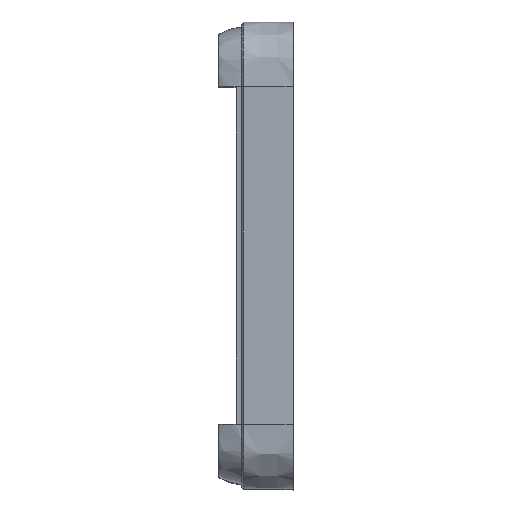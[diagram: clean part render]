
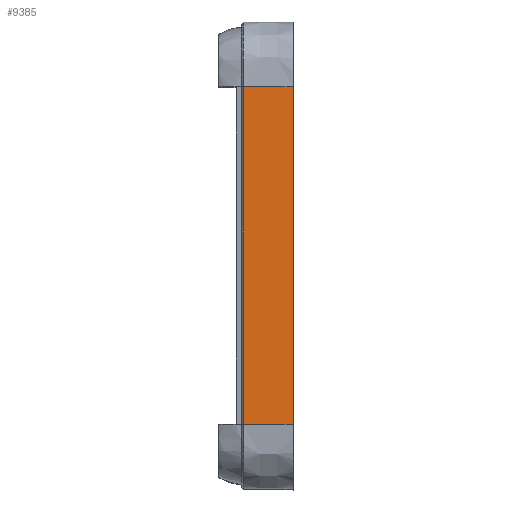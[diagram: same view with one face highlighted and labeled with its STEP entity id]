
A CAD part, top view. The second image highlights one B-rep face of the part: STEP entity #9385.
In plain terms, the highlighted planar face has unit normal (0, 0, 1).
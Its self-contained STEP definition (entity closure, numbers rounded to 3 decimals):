
#54=PLANE('',#9880);
#634=FACE_OUTER_BOUND('',#1185,.T.);
#1185=EDGE_LOOP('',(#7367,#7368,#7369,#7370));
#2788=LINE('',#22803,#3112);
#2818=LINE('',#28163,#3142);
#2823=LINE('',#28329,#3147);
#2824=LINE('',#28331,#3148);
#3112=VECTOR('',#10620,10.);
#3142=VECTOR('',#10734,10.);
#3147=VECTOR('',#10739,10.);
#3148=VECTOR('',#10742,10.);
#3889=VERTEX_POINT('',#22716);
#3893=VERTEX_POINT('',#22802);
#4018=VERTEX_POINT('',#28162);
#4023=VERTEX_POINT('',#28316);
#5041=EDGE_CURVE('',#3893,#3889,#2788,.T.);
#5254=EDGE_CURVE('',#3889,#4018,#2818,.T.);
#5262=EDGE_CURVE('',#4023,#4018,#2823,.T.);
#5263=EDGE_CURVE('',#4023,#3893,#2824,.T.);
#7367=ORIENTED_EDGE('',*,*,#5254,.T.);
#7368=ORIENTED_EDGE('',*,*,#5262,.F.);
#7369=ORIENTED_EDGE('',*,*,#5263,.T.);
#7370=ORIENTED_EDGE('',*,*,#5041,.T.);
#9385=ADVANCED_FACE('',(#634),#54,.F.);
#9880=AXIS2_PLACEMENT_3D('',#28330,#10740,#10741);
#10620=DIRECTION('',(-1.,0.,0.));
#10734=DIRECTION('',(0.,-1.,0.));
#10739=DIRECTION('',(-1.,0.,0.));
#10740=DIRECTION('center_axis',(0.,0.,
-1.));
#10741=DIRECTION('ref_axis',(-1.,0.,0.));
#10742=DIRECTION('',(0.,1.,0.));
#22716=CARTESIAN_POINT('',(160.8,65.,116.5));
#22802=CARTESIAN_POINT('',(180.,65.,116.5));
#22803=CARTESIAN_POINT('',(160.,65.,116.5));
#28162=CARTESIAN_POINT('',(160.8,-65.,116.5));
#28163=CARTESIAN_POINT('',(160.8,-77.5,116.5));
#28316=CARTESIAN_POINT('',(180.,-65.,116.5));
#28329=CARTESIAN_POINT('',(160.,-65.,116.5));
#28330=CARTESIAN_POINT('Origin',(180.,-65.,116.5));
#28331=CARTESIAN_POINT('',(180.,-65.,116.5));
